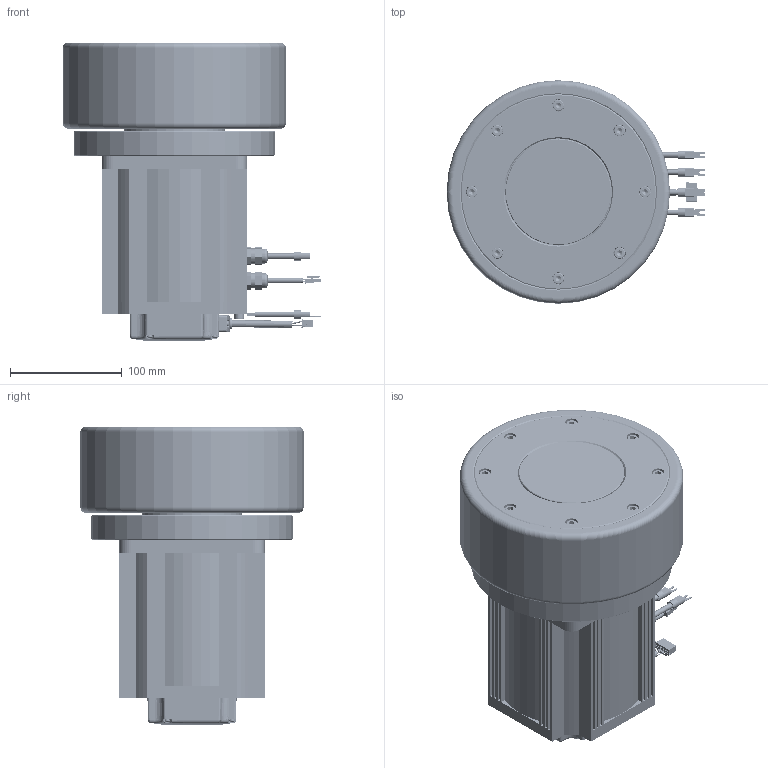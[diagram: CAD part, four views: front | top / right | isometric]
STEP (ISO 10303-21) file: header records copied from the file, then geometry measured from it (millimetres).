
FILE_DESCRIPTION((''),'2;1');
FILE_NAME('MSD200--150-30GSL-B_ASM','2026-06-04T11:44:58',('MS28159'),(''),'CREO PARAMETRIC BY PTC INC, 2018100','CREO PARAMETRIC BY PTC INC, 2018100','');
FILE_SCHEMA(('CONFIG_CONTROL_DESIGN'));
Products named in the file (47): HEXAGON_SOCKET_HEAD_CAP_SCREW_2; SINGLE_COIL_LOCK_WASHERS_LIGH_2; AEQ-145N-032-15-22-1_X2_6A215_2; AEQ-145-H77-W200_1_1_2; AEQ-145-L2-15-22-1-H77-W200_A_2_ASM; AEQ-145N-020-15-22-1-H77-W200_2_ASM; 4611170005762-130SVE04302-150_2_ASM; _1-SOLID1_1_2_3_400_1-5105_1; NONE-1005_1_1; AGV-1-SOLID1_10001_1_1; M5-8-SOLID1_1_2_1_1; _1-SOLID1_1_2_3_400_1-10653_1; _1-SOLID1_1_2_3_400_1-15453_1; M5-4-SOLID1_1_2_3_1_1; _7-SOLID1_1_2_300_1_1; M10_MM-8-20-2-SOLI0006_1_1; _1-SOLID1_1_2_3_400_1-23807_1; M5-3-SOLID1_1_2_1_1; DEEP_GROOVE_BALL_BEARINGS_GB__7; M5-6-SOLID1_1_2_3_1_1; M10_MM-8-20-3-SOLI0006_1_1; M5-1-SOLID1_1_2_3_4_1_1; M5-2-SOLID1_1_2_3_1_1; _1-SOLID1_1_2__40001_1_1; 4619121305633-1-SOLID1_1_2_3__1; 5016461600-1-SOLID1_1_2_3_1_1; NONE-35075_1_1; M10_MM-8-20-5-SOLI0001_1_1; NONE-37348_1_1; NONE-38266_1_1; 463414020-1-SOLID10002_1_1; _1-SOLID1_1_2_30_1_1; M5-9-SOLID1_1_2_1_1; 3698154000285__30001_1_1; _1-SOLID2_1_2_3_400_1_1; NONE-53768_1_1; _6-SOLID1_100_1_1; M5-5-SOLID1_1_2_3_1_1; _8-SOLID1_1_200_1_1; NONE-63727_1_1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
Assembly tree (60 placements, depth 5):
  MSD200--150-30GSL-B_ASM
    4611170005762-130SVE04302-150_2_ASM
      AEQ-145N-020-15-22-1-H77-W200_2_ASM
        AEQ-145-L2-15-22-1-H77-W200_A_2_ASM
          HEXAGON_SOCKET_HEAD_CAP_SCREW_2  x8
          SINGLE_COIL_LOCK_WASHERS_LIGH_2  x8
          AEQ-145N-032-15-22-1_X2_6A215_2
          AEQ-145-H77-W200_1_1_2
    130SVE04302-1500G_ASM
      4611170005764_A0_ASM_1_1_ASM
        4611170005764_A0_1_ASM_1_1_ASM
          _1-SOLID1_1_2_3_400_1-5105_1
          NONE-1005_1_1
          AGV-1-SOLID1_10001_1_1
          M5-8-SOLID1_1_2_1_1
          _1-SOLID1_1_2_3_400_1-10653_1
          _1-SOLID1_1_2_3_400_1-15453_1
          M5-4-SOLID1_1_2_3_1_1
          _7-SOLID1_1_2_300_1_1
          M10_MM-8-20-2-SOLI0006_1_1
          _1-SOLID1_1_2_3_400_1-23807_1
          M5-3-SOLID1_1_2_1_1
          DEEP_GROOVE_BALL_BEARINGS_GB__7
          M5-6-SOLID1_1_2_3_1_1
          M10_MM-8-20-3-SOLI0006_1_1
          M5-1-SOLID1_1_2_3_4_1_1
          M5-2-SOLID1_1_2_3_1_1
          _1-SOLID1_1_2__40001_1_1
          4619121305633-1-SOLID1_1_2_3__1
          5016461600-1-SOLID1_1_2_3_1_1
          NONE-35075_1_1
          M10_MM-8-20-5-SOLI0001_1_1
          NONE-37348_1_1
          NONE-38266_1_1
          463414020-1-SOLID10002_1_1
          _1-SOLID1_1_2_30_1_1
          M5-9-SOLID1_1_2_1_1
          3698154000285__30001_1_1
          _1-SOLID2_1_2_3_400_1_1
          NONE-53768_1_1
          _6-SOLID1_100_1_1
          M5-5-SOLID1_1_2_3_1_1
          _8-SOLID1_1_200_1_1
          NONE-63727_1_1
          M5-7-SOLID1_1_1_1_2_3
          M10_MM-8-20-1-SOLI0006_1_1
          _9-SOLID1_1_200_1_1
Bounding box: 231.65 x 200 x 267.3 mm (x, y, z)
Volume: 3671317.1 mm3; surface area: 611258.1 mm2
Topology: 54 solids, 60 shells, 4485 faces, 10591 edges, 6264 vertices
Faces by surface type: plane 1446, cone 1399, cylinder 1279, torus 249, bspline 50, sphere 48, extrusion 14
Entity records: 89961 total; most frequent: CARTESIAN_POINT 22553, DIRECTION 14271, ORIENTED_EDGE 13734, EDGE_CURVE 6867, AXIS2_PLACEMENT_3D 5261, VERTEX_POINT 4381, VECTOR 3749, LINE 3735
